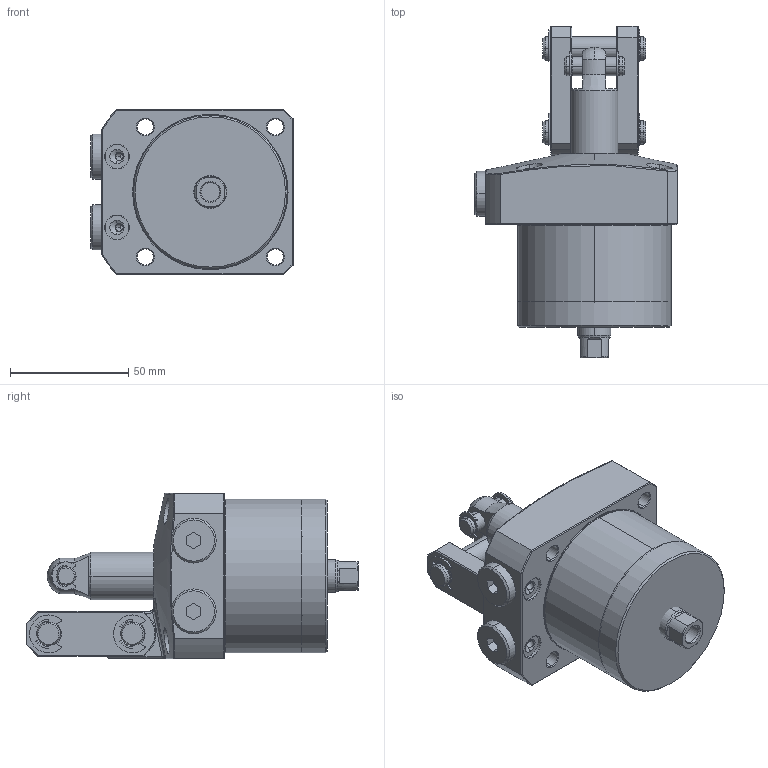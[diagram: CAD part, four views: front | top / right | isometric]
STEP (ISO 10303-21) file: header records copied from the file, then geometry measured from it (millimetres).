
FILE_DESCRIPTION(/* description */ (''),/* implementation_level */ '2;1');
FILE_NAME(/* name */ 'KTPC65-LD.stp',/* time_stamp */ '2022-11-19T08:09:01+08:00',/* author */ (''),/* organization */ (''),/* preprocessor_version */ 'ST-DEVELOPER v16.7',/* originating_system */ 'SIEMENS PLM Software NX 12.0',/* authorisation */ '');
FILE_SCHEMA (('AP203_CONFIGURATION_CONTROLLED_3D_DESIGN_OF_MECHANICAL_PARTS_AND_ASSEMBLIES_MIM_LF { 1 0 10303 403 2 1 2}'));
Length unit declared in the file: millimetre
Products named in the file (10): KTPC65-LD-01; KTPC65-LD-08; KTPC65-LD-02; KTPC65-LD-07; KTPC65-LD-05; KTPC65-LD-06; KTPC65-LD-03; KTPC65-LD-09; KTPC65-LD-04; LKA0650-CLD_step
Assembly tree (16 placements, depth 2):
  LKA0650-CLD_step
    KTPC65-LD-04  x2
    KTPC65-LD-09  x4
    KTPC65-LD-03
    KTPC65-LD-06  x2
    KTPC65-LD-05  x2
    KTPC65-LD-07
    KTPC65-LD-02
    KTPC65-LD-08  x2
    KTPC65-LD-01
Bounding box: 85.5 x 140.5 x 70 mm (x, y, z)
Volume: 442144.2 mm3; surface area: 65995.2 mm2
Topology: 16 solids, 16 shells, 587 faces, 1407 edges, 879 vertices
Faces by surface type: cylinder 240, plane 185, cone 77, torus 64, bspline 19, sphere 2
Full cylindrical faces by diameter (mm): 65 x1
Entity records: 13447 total; most frequent: CARTESIAN_POINT 3350, DIRECTION 1917, ORIENTED_EDGE 1770, EDGE_CURVE 885, AXIS2_PLACEMENT_3D 775, VERTEX_POINT 549, EDGE_LOOP 426, CIRCLE 397
